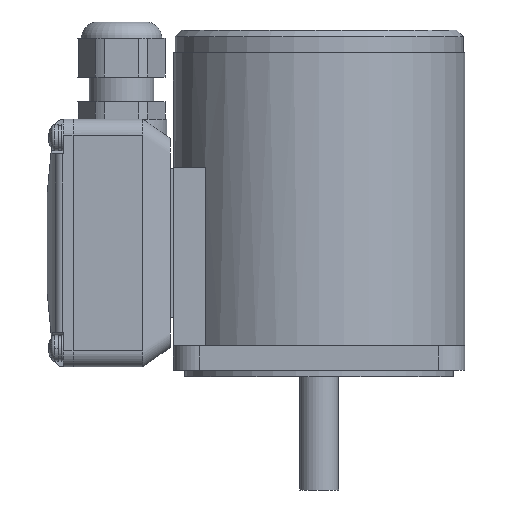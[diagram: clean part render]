
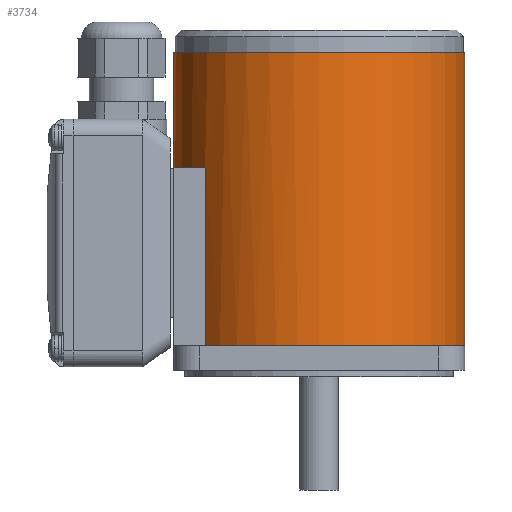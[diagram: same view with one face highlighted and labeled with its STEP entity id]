
A CAD part, left-side view. The second image highlights one B-rep face of the part: STEP entity #3734.
In plain terms, the highlighted cylindrical face has radius 45 mm (diameter 90 mm), a partial arc.
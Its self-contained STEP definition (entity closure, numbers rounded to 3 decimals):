
#183 = CARTESIAN_POINT ( 'NONE',  ( -45., 0., 7.5 ) ) ;
#217 = CARTESIAN_POINT ( 'NONE',  ( 0., 45., 62.5 ) ) ;
#231 = CARTESIAN_POINT ( 'NONE',  ( 0., 0., 62.5 ) ) ;
#240 = AXIS2_PLACEMENT_3D ( 'NONE', #3177, #6918, #3703 ) ;
#393 = ORIENTED_EDGE ( 'NONE', *, *, #3972, .T. ) ;
#432 = DIRECTION ( 'NONE',  ( 0., 1., 0. ) ) ;
#488 = VERTEX_POINT ( 'NONE', #183 ) ;
#666 = ORIENTED_EDGE ( 'NONE', *, *, #5494, .T. ) ;
#768 = DIRECTION ( 'NONE',  ( 1., 0., 0. ) ) ;
#770 = CARTESIAN_POINT ( 'NONE',  ( -28., 35.228, 7.5 ) ) ;
#809 = AXIS2_PLACEMENT_3D ( 'NONE', #231, #3959, #768 ) ;
#865 = VERTEX_POINT ( 'NONE', #4951 ) ;
#934 = ORIENTED_EDGE ( 'NONE', *, *, #1984, .T. ) ;
#1042 = CIRCLE ( 'NONE', #6470, 45. ) ;
#1119 = CARTESIAN_POINT ( 'NONE',  ( -28., 35.228, 62.5 ) ) ;
#1234 = CIRCLE ( 'NONE', #5740, 45. ) ;
#1253 = VECTOR ( 'NONE', #1841, 1000. ) ;
#1306 = DIRECTION ( 'NONE',  ( 0., 0., -1. ) ) ;
#1587 = DIRECTION ( 'NONE',  ( 0., 1., 0. ) ) ;
#1740 = VECTOR ( 'NONE', #1306, 1000. ) ;
#1841 = DIRECTION ( 'NONE',  ( 0., 0., -1. ) ) ;
#1897 = CIRCLE ( 'NONE', #809, 45. ) ;
#1984 = EDGE_CURVE ( 'NONE', #4579, #5303, #2687, .T. ) ;
#2095 = ORIENTED_EDGE ( 'NONE', *, *, #3986, .T. ) ;
#2416 = VERTEX_POINT ( 'NONE', #1119 ) ;
#2574 = LINE ( 'NONE', #5403, #3981 ) ;
#2687 = LINE ( 'NONE', #3954, #1253 ) ;
#2741 = DIRECTION ( 'NONE',  ( 0., 0., -1. ) ) ;
#2897 = CARTESIAN_POINT ( 'NONE',  ( -28., 35.228, -71.281 ) ) ;
#2902 = CYLINDRICAL_SURFACE ( 'NONE', #4892, 45. ) ;
#3004 = VERTEX_POINT ( 'NONE', #770 ) ;
#3043 = DIRECTION ( 'NONE',  ( 0., 0., -1. ) ) ;
#3162 = LINE ( 'NONE', #2897, #1740 ) ;
#3177 = CARTESIAN_POINT ( 'NONE',  ( 0., 0., 7.5 ) ) ;
#3373 = EDGE_CURVE ( 'NONE', #5388, #865, #2574, .T. ) ;
#3609 = DIRECTION ( 'NONE',  ( 0., 0., -1. ) ) ;
#3620 = EDGE_CURVE ( 'NONE', #488, #3004, #1234, .T. ) ;
#3703 = DIRECTION ( 'NONE',  ( 0., 1., 0. ) ) ;
#3734 = ADVANCED_FACE ( 'NONE', ( #4477 ), #2902, .T. ) ;
#3939 = ORIENTED_EDGE ( 'NONE', *, *, #3620, .F. ) ;
#3954 = CARTESIAN_POINT ( 'NONE',  ( 0., 45., -71.281 ) ) ;
#3959 = DIRECTION ( 'NONE',  ( 0., 0., 1. ) ) ;
#3972 = EDGE_CURVE ( 'NONE', #5303, #2416, #1897, .T. ) ;
#3981 = VECTOR ( 'NONE', #2741, 1000. ) ;
#3986 = EDGE_CURVE ( 'NONE', #2416, #3004, #3162, .T. ) ;
#4038 = CARTESIAN_POINT ( 'NONE',  ( 0., -45., 98. ) ) ;
#4477 = FACE_OUTER_BOUND ( 'NONE', #5533, .T. ) ;
#4579 = VERTEX_POINT ( 'NONE', #5653 ) ;
#4772 = DIRECTION ( 'NONE',  ( 0., 0., -1. ) ) ;
#4892 = AXIS2_PLACEMENT_3D ( 'NONE', #6368, #4772, #1587 ) ;
#4951 = CARTESIAN_POINT ( 'NONE',  ( 0., -45., 7.5 ) ) ;
#5069 = ORIENTED_EDGE ( 'NONE', *, *, #5545, .F. ) ;
#5125 = CIRCLE ( 'NONE', #240, 45. ) ;
#5303 = VERTEX_POINT ( 'NONE', #217 ) ;
#5388 = VERTEX_POINT ( 'NONE', #4038 ) ;
#5403 = CARTESIAN_POINT ( 'NONE',  ( 0., -45., -71.281 ) ) ;
#5494 = EDGE_CURVE ( 'NONE', #5388, #4579, #1042, .T. ) ;
#5533 = EDGE_LOOP ( 'NONE', ( #6857, #666, #934, #393, #2095, #3939, #5069 ) ) ;
#5545 = EDGE_CURVE ( 'NONE', #865, #488, #5125, .T. ) ;
#5653 = CARTESIAN_POINT ( 'NONE',  ( 0., 45., 98. ) ) ;
#5740 = AXIS2_PLACEMENT_3D ( 'NONE', #6245, #3043, #6771 ) ;
#6245 = CARTESIAN_POINT ( 'NONE',  ( 0., 0., 7.5 ) ) ;
#6368 = CARTESIAN_POINT ( 'NONE',  ( 0., 0., -71.281 ) ) ;
#6470 = AXIS2_PLACEMENT_3D ( 'NONE', #6818, #3609, #432 ) ;
#6771 = DIRECTION ( 'NONE',  ( 0., 1., 0. ) ) ;
#6818 = CARTESIAN_POINT ( 'NONE',  ( 0., 0., 98. ) ) ;
#6857 = ORIENTED_EDGE ( 'NONE', *, *, #3373, .F. ) ;
#6918 = DIRECTION ( 'NONE',  ( 0., 0., -1. ) ) ;
